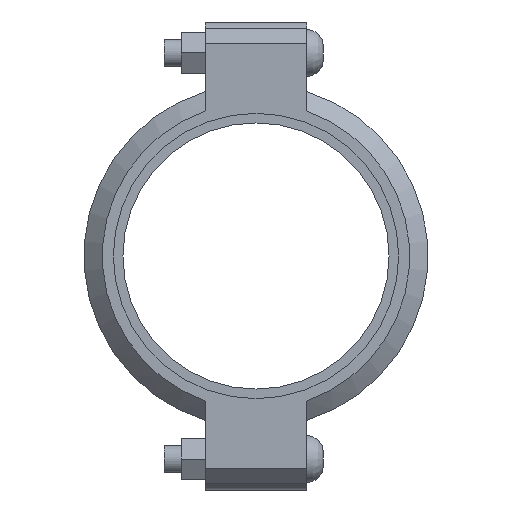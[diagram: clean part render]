
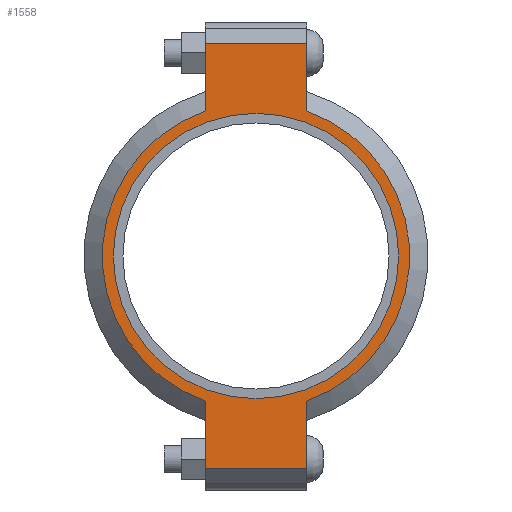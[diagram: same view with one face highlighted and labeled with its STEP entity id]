
A CAD part, left-side view. The second image highlights one B-rep face of the part: STEP entity #1558.
In plain terms, the highlighted planar face has unit normal (-1, 0, 0) as drawn and (0, 0, 1) by its records, which use the part's own axes.
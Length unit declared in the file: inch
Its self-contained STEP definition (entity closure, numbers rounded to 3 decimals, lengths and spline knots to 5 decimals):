
#182=LINE('',#2719,#275);
#190=LINE('',#2755,#283);
#197=LINE('',#2776,#290);
#206=LINE('',#2808,#299);
#207=LINE('',#2812,#300);
#208=LINE('',#2814,#301);
#275=VECTOR('',#2215,0.3937);
#283=VECTOR('',#2231,0.3937);
#290=VECTOR('',#2250,0.3937);
#299=VECTOR('',#2275,0.3937);
#300=VECTOR('',#2280,0.3937);
#301=VECTOR('',#2281,0.3937);
#357=FACE_BOUND('',#535,.T.);
#429=FACE_OUTER_BOUND('',#534,.T.);
#534=EDGE_LOOP('',(#1299,#1300,#1301,#1302,#1303,#1304,#1305,#1306));
#535=EDGE_LOOP('',(#1307));
#607=CIRCLE('',#1777,3.25);
#633=CIRCLE('',#1836,3.5);
#634=CIRCLE('',#1837,3.5);
#699=VERTEX_POINT('',#2535);
#742=VERTEX_POINT('',#2716);
#743=VERTEX_POINT('',#2718);
#754=VERTEX_POINT('',#2750);
#755=VERTEX_POINT('',#2754);
#762=VERTEX_POINT('',#2773);
#763=VERTEX_POINT('',#2775);
#773=VERTEX_POINT('',#2811);
#774=VERTEX_POINT('',#2813);
#855=EDGE_CURVE('',#699,#699,#607,.T.);
#916=EDGE_CURVE('',#743,#742,#182,.T.);
#930=EDGE_CURVE('',#755,#754,#190,.T.);
#940=EDGE_CURVE('',#763,#762,#197,.T.);
#955=EDGE_CURVE('',#755,#742,#206,.T.);
#956=EDGE_CURVE('',#754,#763,#633,.T.);
#957=EDGE_CURVE('',#773,#762,#207,.T.);
#958=EDGE_CURVE('',#773,#774,#208,.T.);
#959=EDGE_CURVE('',#774,#743,#634,.T.);
#1299=ORIENTED_EDGE('',*,*,#955,.F.);
#1300=ORIENTED_EDGE('',*,*,#930,.T.);
#1301=ORIENTED_EDGE('',*,*,#956,.T.);
#1302=ORIENTED_EDGE('',*,*,#940,.T.);
#1303=ORIENTED_EDGE('',*,*,#957,.F.);
#1304=ORIENTED_EDGE('',*,*,#958,.T.);
#1305=ORIENTED_EDGE('',*,*,#959,.T.);
#1306=ORIENTED_EDGE('',*,*,#916,.T.);
#1307=ORIENTED_EDGE('',*,*,#855,.T.);
#1400=PLANE('',#1835);
#1558=ADVANCED_FACE('',(#429,#357),#1400,.T.);
#1777=AXIS2_PLACEMENT_3D('',#2537,#2091,#2092);
#1835=AXIS2_PLACEMENT_3D('',#2809,#2276,#2277);
#1836=AXIS2_PLACEMENT_3D('',#2810,#2278,#2279);
#1837=AXIS2_PLACEMENT_3D('',#2815,#2282,#2283);
#2091=DIRECTION('center_axis',(0.,0.,-1.));
#2092=DIRECTION('ref_axis',(-1.,0.,0.));
#2215=DIRECTION('',(-1.,0.,0.));
#2231=DIRECTION('',(1.,0.,0.));
#2250=DIRECTION('',(1.,0.,0.));
#2275=DIRECTION('',(0.,1.,0.));
#2276=DIRECTION('center_axis',(0.,0.,1.));
#2277=DIRECTION('ref_axis',(1.,0.,0.));
#2278=DIRECTION('center_axis',(0.,0.,1.));
#2279=DIRECTION('ref_axis',(-1.,0.,0.));
#2280=DIRECTION('',(0.,-1.,0.));
#2281=DIRECTION('',(-1.,0.,0.));
#2282=DIRECTION('center_axis',(0.,0.,1.));
#2283=DIRECTION('ref_axis',(-1.,0.,0.));
#2535=CARTESIAN_POINT('',(3.25,0.,1.04));
#2537=CARTESIAN_POINT('Origin',(0.,0.,1.04));
#2716=CARTESIAN_POINT('',(-4.83,1.156,1.04));
#2718=CARTESIAN_POINT('',(-3.30358,1.156,1.04));
#2719=CARTESIAN_POINT('',(-5.33,1.156,1.04));
#2750=CARTESIAN_POINT('',(-3.30358,-1.156,1.04));
#2754=CARTESIAN_POINT('',(-4.83,-1.156,1.04));
#2755=CARTESIAN_POINT('',(5.33,-1.156,1.04));
#2773=CARTESIAN_POINT('',(4.83,-1.156,1.04));
#2775=CARTESIAN_POINT('',(3.30358,-1.156,1.04));
#2776=CARTESIAN_POINT('',(5.33,-1.156,1.04));
#2808=CARTESIAN_POINT('',(-4.83,0.578,1.04));
#2809=CARTESIAN_POINT('Origin',(0.,0.,1.04));
#2810=CARTESIAN_POINT('Origin',(0.,0.,1.04));
#2811=CARTESIAN_POINT('',(4.83,1.156,1.04));
#2812=CARTESIAN_POINT('',(4.83,-0.578,1.04));
#2813=CARTESIAN_POINT('',(3.30358,1.156,1.04));
#2814=CARTESIAN_POINT('',(-5.33,1.156,1.04));
#2815=CARTESIAN_POINT('Origin',(0.,0.,1.04));
